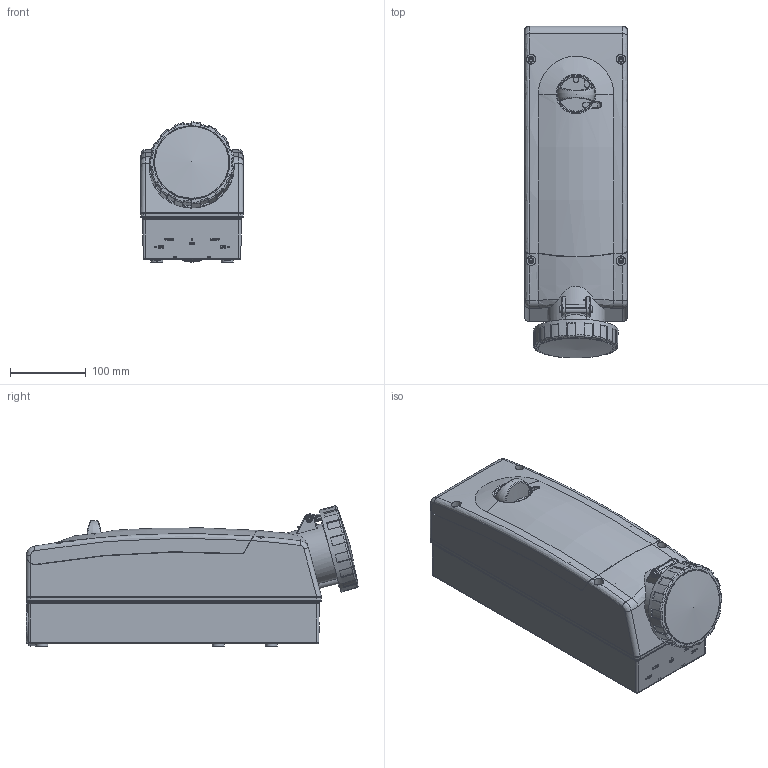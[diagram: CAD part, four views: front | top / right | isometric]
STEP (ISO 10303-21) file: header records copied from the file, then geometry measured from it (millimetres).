
FILE_DESCRIPTION(/* description */ (''),/* implementation_level */ '2;1');
FILE_NAME(/* name */ '4006738.stp',/* time_stamp */ '2019-09-06T08:20:57+02:00',/* author */ (''),/* organization */ (''),/* preprocessor_version */ 'ST-DEVELOPER v16.7',/* originating_system */ 'SIEMENS PLM Software NX 1880',/* authorisation */ '');
FILE_SCHEMA (('AUTOMOTIVE_DESIGN { 1 0 10303 214 3 1 1 1 }'));
Length unit declared in the file: millimetre
Products named in the file (1): BSOMAD80C49Eeeie
Bounding box: 136 x 438.33 x 185.02 mm (x, y, z)
Volume: 1030980 mm3; surface area: 805447.4 mm2
Topology: 22 solids, 22 shells, 3092 faces, 8189 edges, 5253 vertices
Faces by surface type: plane 1423, cylinder 761, bspline 252, extrusion 239, torus 193, cone 184, sphere 35, revolution 5
Full cylindrical faces by diameter (mm): 0.998 x4, 1.5 x1, 2 x2, 2.1 x2, 2.5 x2, 2.7 x1, 2.8 x8, 2.9 x8, 3 x4, 3.2 x6, 3.5 x2, 4 x10, 4.1 x2, 4.4 x4, 6.5 x6, 6.8 x2, 6.98 x2, 7.5 x4, 8.4 x2, 11.4 x2, 13 x2, 14.2 x4, 15.3 x1, 16 x6, 21.3 x1, 25.2 x1, 25.4 x1, 25.6 x1, 30.1 x1, 30.6 x1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
Entity records: 134975 total; most frequent: CARTESIAN_POINT 62485, ORIENTED_EDGE 15698, DIRECTION 13492, EDGE_CURVE 7849, VERTEX_POINT 5156, AXIS2_PLACEMENT_3D 4813, VECTOR 3861, LINE 3622
